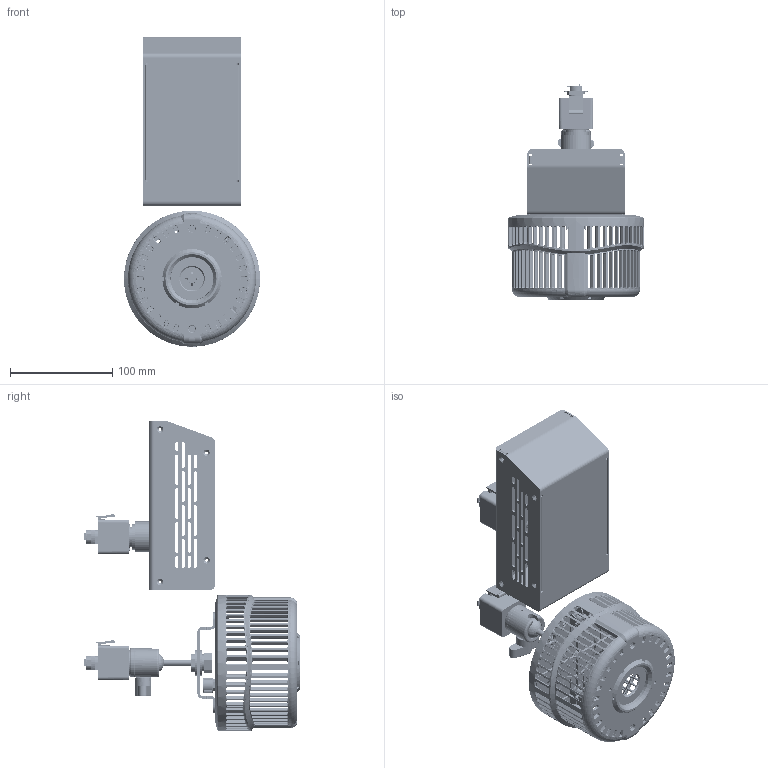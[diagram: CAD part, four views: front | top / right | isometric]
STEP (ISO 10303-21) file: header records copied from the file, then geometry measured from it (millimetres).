
FILE_DESCRIPTION (( 'STEP AP214' ), '1' );
FILE_NAME ('W500X-TG-PS.STEP', '2024-01-31T17:49:03', ( '' ), ( '' ), 'SwSTEP 2.0', 'SolidWorks 2022', '' );
FILE_SCHEMA (( 'AUTOMOTIVE_DESIGN' ));
Length unit declared in the file: millimetre
Products named in the file (30): 5120519-XXX_A3_Assembly BOM, Kessil W500 Power Box_TON(US)-PS; 5022485-035_A2_ Hollow Screw M10x1.0___; 5120529-XXX_A1_Assembly BOM, W500 Light Engine_Finish; 5022405-XXX_A1_Wing Knob Screws, M6xL8.0mm_-001; 5120540-XXX_A1_Rear Panel, OD=133, T=13.65mm, W-Series_5120531-001 W500; 5020757-002_A2_VR Washer, Kessil A360 Aquarium Light___; 5020893-2010525020_ _Flat Washer, M10, ID10.5 OD25.0, T2 SUS 304___; 5021926-XXX_A2_KNOB, 18T, OD=14.9, ID=6, L=10MM_C1; 5022493-XXX_A2_Spacer Support, ID10.5 OD20 H17mm___; 5020757-001_A1_VR Nut, Kessil A360 Aquarium Light___; 5120522-XXX_A4_Assembly BOM, W360&W500 Light Mounting Type_TG; 5022435_A2_G-Type Track Stop Washer, SUS304, 32x22x1(H)mm___; 5021498-114035130201_ _Standard Types of Tapping Screws for Plastic, Pan Head, Phillips, M3.5xL20___; 5022424-XXX_A2_250W Power Box Cover (TG&TEX-PS&CLP&TJ TYPE), 165x92x62.5(H)mm___; 5010177-XXX_A2_Assembly BOM, Kessil W500_N-[TG]; 5022189_A1_Plate, OD=48, ID=23, T=2.0mm___; W500X-TG-PS; 5022431-XXX_A1_Ball Joint Part A, L=23.7mm___; 5022427-XXX_A4_250W Power Box FRAME (TG&TEX&CLP TYPE), 165x95x64mm___; 5120539-XXX_A1_Housing, OD=133, ID=121, T=78.1mm, For Reflector, Without Logo___; 5047581-XXX_A2_Track Adapter for Global Eco Track (GES Series)_For W500 Power Box; 5022430-XXX_A1_Ball Joint Part C (For TDE), L=18.9mm___; 5021416_A1_Hex Nut, M10xP1.5, T8 SUS___; 62282-5014005_ _Standard Types of Metric Set Screws, M4xL5, Black___; 5022708-XXX_A2_Ball Joint Axis, L=65.8mm___; 5047581-XXX_A2_Track Adapter for Global Eco Track (GES Series)_Finish_2; 5022770-XXX_A1_RETAINING COLLAR M10P1.0 FOR ONETRACK POWER BOX OD30x29.8mm___; 5020897-2010216520_ _Helical Spring Washer Customized___; 5022693-XXX_A1_Bracket, 98.85x25x17.5, T=2.5mm___; 5120530-XXX_A1_Assembly BOM, W500 Reflector Type_No Reflector
Assembly tree (37 placements, depth 4):
  W500X-TG-PS
    5010177-XXX_A2_Assembly BOM, Kessil W500_N-[TG]
      5120529-XXX_A1_Assembly BOM, W500 Light Engine_Finish
        5120540-XXX_A1_Rear Panel, OD=133, T=13.65mm, W-Series_5120531-001 W500
        5020757-002_A2_VR Washer, Kessil A360 Aquarium Light___  x2
        5020757-001_A1_VR Nut, Kessil A360 Aquarium Light___  x2
        5021926-XXX_A2_KNOB, 18T, OD=14.9, ID=6, L=10MM_C1  x2
      5120530-XXX_A1_Assembly BOM, W500 Reflector Type_No Reflector
        5120539-XXX_A1_Housing, OD=133, ID=121, T=78.1mm, For Reflector, Without Logo___
        5022189_A1_Plate, OD=48, ID=23, T=2.0mm___
      5120522-XXX_A4_Assembly BOM, W360&W500 Light Mounting Type_TG
        5022431-XXX_A1_Ball Joint Part A, L=23.7mm___
        5022430-XXX_A1_Ball Joint Part C (For TDE), L=18.9mm___
        5022708-XXX_A2_Ball Joint Axis, L=65.8mm___
        62282-5014005_ _Standard Types of Metric Set Screws, M4xL5, Black___
        5022405-XXX_A1_Wing Knob Screws, M6xL8.0mm_-001
        5022693-XXX_A1_Bracket, 98.85x25x17.5, T=2.5mm___
        5047581-XXX_A2_Track Adapter for Global Eco Track (GES Series)_Finish_2
        5022435_A2_G-Type Track Stop Washer, SUS304, 32x22x1(H)mm___
        5021498-114035130201_ _Standard Types of Tapping Screws for Plastic, Pan Head, Phillips, M3.5xL20___  x2
        5020893-2010525020_ _Flat Washer, M10, ID10.5 OD25.0, T2 SUS 304___  x2
        5020897-2010216520_ _Helical Spring Washer Customized___
        5021416_A1_Hex Nut, M10xP1.5, T8 SUS___
    5120519-XXX_A3_Assembly BOM, Kessil W500 Power Box_TON(US)-PS
      5022427-XXX_A4_250W Power Box FRAME (TG&TEX&CLP TYPE), 165x95x64mm___
      5047581-XXX_A2_Track Adapter for Global Eco Track (GES Series)_For W500 Power Box
      5022435_A2_G-Type Track Stop Washer, SUS304, 32x22x1(H)mm___
      5022485-035_A2_ Hollow Screw M10x1.0___
      5022493-XXX_A2_Spacer Support, ID10.5 OD20 H17mm___
      5021498-114035130201_ _Standard Types of Tapping Screws for Plastic, Pan Head, Phillips, M3.5xL20___  x2
      5022770-XXX_A1_RETAINING COLLAR M10P1.0 FOR ONETRACK POWER BOX OD30x29.8mm___
      5022424-XXX_A2_250W Power Box Cover (TG&TEX-PS&CLP&TJ TYPE), 165x92x62.5(H)mm___
Bounding box: 133 x 211.91 x 302.67 mm (x, y, z)
Volume: 298274.3 mm3; surface area: 330709.4 mm2
Topology: 46 solids, 46 shells, 6687 faces, 18376 edges, 11715 vertices
Faces by surface type: plane 2403, cylinder 2395, bspline 1044, cone 440, torus 383, sphere 22
Entity records: 466427 total; most frequent: CARTESIAN_POINT 310008, ORIENTED_EDGE 33270, DIRECTION 26961, EDGE_CURVE 16635, VERTEX_POINT 10579, AXIS2_PLACEMENT_3D 9833, VECTOR 7295, LINE 7295
